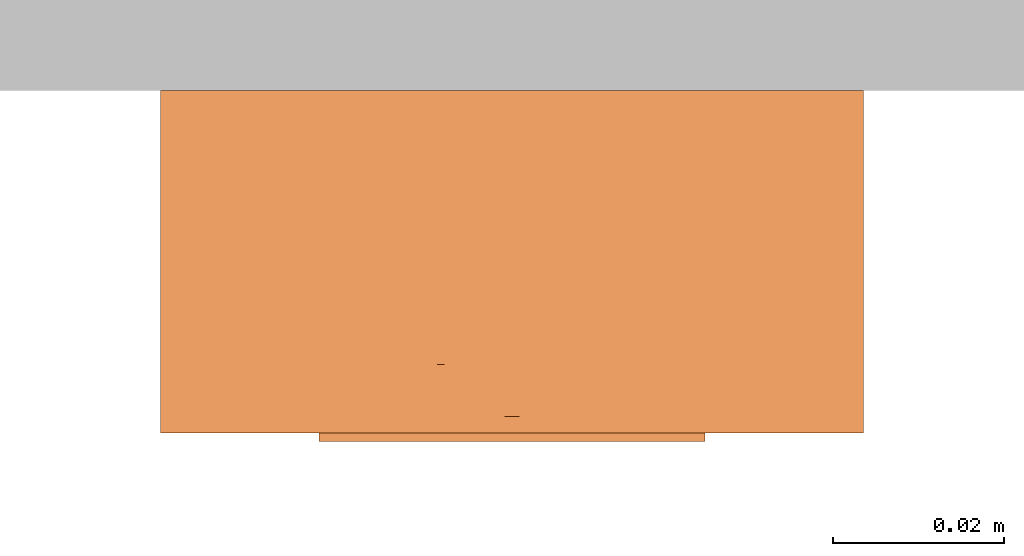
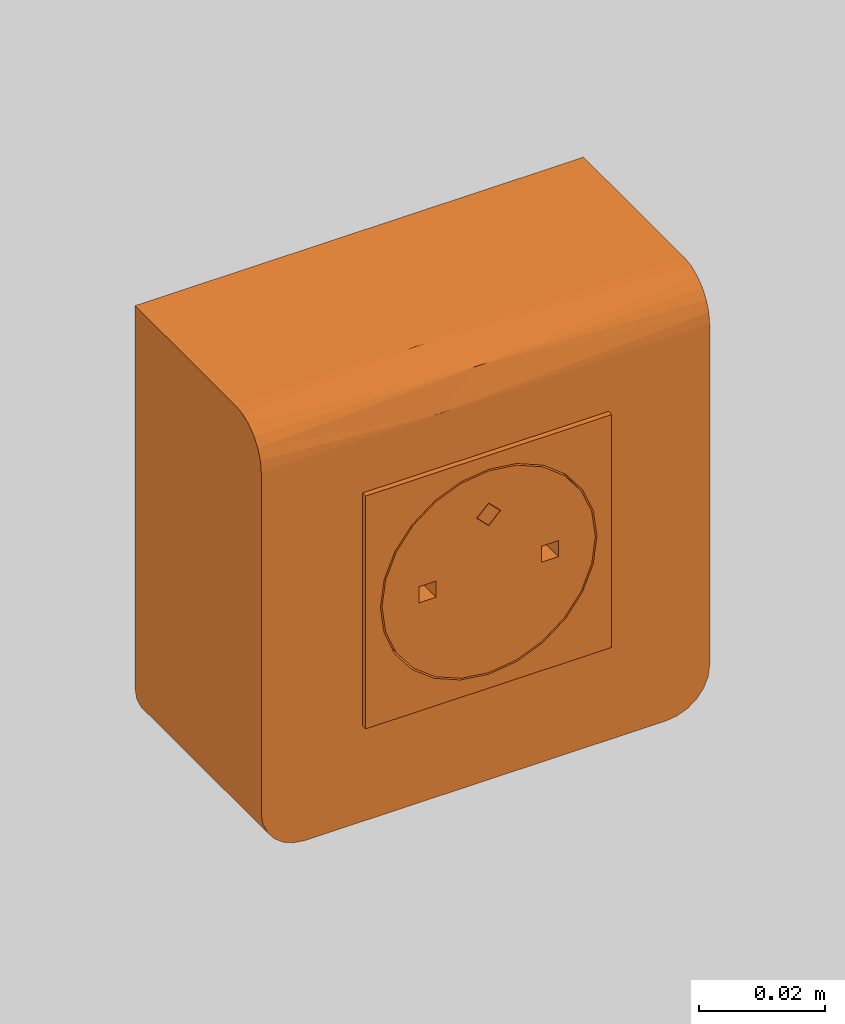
# One storey, part 103 of 197: 1 proxy.
"""IFC2X3 building model written with IfcOpenShell, lengths in metres."""

from ifc_helpers import new_model, entity, si_unit, converted_unit, direction, frame, origin, place, context, subcontext, project, spatial, faceted_brep, source, transform, mapped, material, material_list, type_object, type_shapes, element, save


model = new_model("IFC2X3")

# Units and contexts
model_context = context("Model", 3, precision=1e-05, world=origin(), true_north=direction((6.123031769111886e-17, 1.0)))
body_context = subcontext(model_context, "Body", "Model", "MODEL_VIEW")
ifc_project = project(units=[si_unit("LENGTHUNIT", "METRE"), converted_unit("PLANEANGLEUNIT", "DEGREE", entity("IfcPlaneAngleMeasure", 0.017453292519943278), si_unit("PLANEANGLEUNIT", "RADIAN"), dimensions=[0, 0, 0, 0, 0, 0, 0]), si_unit("AREAUNIT", "SQUARE_METRE")], contexts=[model_context])

# Site, building, storey
site_placement = place(None, origin())
site = spatial("IfcSite", under=ifc_project, at=site_placement, Name="Default", CompositionType="ELEMENT")
building_placement = place(site_placement, origin())
building = spatial("IfcBuilding", under=site, at=building_placement, CompositionType="ELEMENT")
storey_placement = place(building_placement, origin())
storey = spatial("IfcBuildingStorey", under=building, at=storey_placement, Name="Niveau 0", CompositionType="ELEMENT", Elevation=0.0)

# Proxy
ifc_material_1 = material(Name="<Unnamed>")
ifc_material_2 = material(Name="BETCE-PCN-BLANC")
ifc_material_3 = material(Name="BETCE-ENJOLIVEUR PC-BLANC")
ifc_material_list = material_list([ifc_material_1, ifc_material_2, ifc_material_3])
building_element_proxy_type = type_object("IfcBuildingElementProxyType", Name="Prise simple saillie:PC20A", PredefinedType="NOTDEFINED", material=ifc_material_list)
shared_shape = source(origin(), body_context, "Body", "Brep", [
    faceted_brep([(0.0, -0.04099309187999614, 0.013200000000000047), (-0.0020999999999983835, -0.04099309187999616, 0.011100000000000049), (0.0, -0.04099309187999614, 0.00900000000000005), (0.0021000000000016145, -0.040993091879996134, 0.011100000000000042), (0.0021000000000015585, -0.031999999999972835, 0.011100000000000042), (0.0, -0.03199999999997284, 0.00900000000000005), (-0.0020999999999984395, -0.031999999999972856, 0.011100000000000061), (0.0, -0.03199999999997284, 0.013200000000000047)], [[[0, 1, 2, 3]], [[4, 5, 6, 7]], [[3, 4, 7, 0]], [[7, 6, 1, 0]], [[1, 6, 5, 2]], [[5, 4, 3, 2]]]),
    faceted_brep([(-0.020499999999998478, -0.03199309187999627, 0.0205), (-0.020499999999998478, -0.03199309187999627, -0.020500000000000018), (0.020500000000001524, -0.031993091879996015, -0.020500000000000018), (0.020500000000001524, -0.031993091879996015, 0.0205), (-0.02049999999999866, -0.002993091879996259, 0.0205), (0.020500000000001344, -0.0029930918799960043, 0.0205), (0.020500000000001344, -0.0029930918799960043, -0.020500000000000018), (-0.02049999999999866, -0.002993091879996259, -0.020500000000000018)], [[[0, 1, 2, 3]], [[4, 5, 6, 7]], [[1, 0, 4, 7]], [[2, 1, 7, 6]], [[3, 2, 6, 5]], [[0, 3, 5, 4]]]),
    faceted_brep([(-0.02249999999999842, -0.04099309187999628, 0.022499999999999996), (-0.00989999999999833, -0.0409930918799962, 0.017147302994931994), (-0.005124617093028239, -0.04099309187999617, 0.01912533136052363), (-0.014000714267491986, -0.04099309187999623, 0.014000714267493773), (0.0, -0.040993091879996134, 0.01980000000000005), (-0.01714730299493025, -0.040993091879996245, 0.009900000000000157), (-0.01912533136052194, -0.040993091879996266, 0.005124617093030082), (-0.019799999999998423, -0.040993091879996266, 0.0), (-0.02249999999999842, -0.04099309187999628, -0.022500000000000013), (0.022500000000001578, -0.040993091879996, 0.022499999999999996), (-0.019125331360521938, -0.040993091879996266, -0.0051246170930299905), (-0.01714730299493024, -0.040993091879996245, -0.009900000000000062), (-0.014000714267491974, -0.04099309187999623, -0.014000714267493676), (-0.009899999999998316, -0.0409930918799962, -0.01714730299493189), (-0.00512461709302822, -0.04099309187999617, -0.019125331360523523), (0.0, -0.040993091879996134, -0.019799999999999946), (0.022500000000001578, -0.040993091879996, -0.022500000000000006), (0.005124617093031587, -0.04099309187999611, -0.01912533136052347), (0.009900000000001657, -0.04099309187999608, -0.01714730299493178), (0.014000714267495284, -0.04099309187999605, -0.014000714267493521), (0.0171473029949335, -0.04099309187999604, -0.00989999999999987), (0.019125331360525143, -0.040993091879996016, -0.0051246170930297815), (0.019800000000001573, -0.040993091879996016, 0.0), (0.005124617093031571, -0.04099309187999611, 0.01912533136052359), (0.009900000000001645, -0.04099309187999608, 0.017147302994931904), (0.01400071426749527, -0.04099309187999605, 0.014000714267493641), (0.0171473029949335, -0.04099309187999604, 0.009899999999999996), (0.019125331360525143, -0.040993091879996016, 0.005124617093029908), (-0.022499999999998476, -0.03199999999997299, -0.022500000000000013), (-0.009899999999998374, -0.031999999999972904, -0.01714730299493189), (-0.0051246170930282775, -0.031999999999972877, -0.019125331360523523), (-0.01400071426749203, -0.03199999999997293, -0.014000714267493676), (0.0, -0.03199999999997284, -0.019799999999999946), (-0.017147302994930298, -0.03199999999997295, -0.009900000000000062), (-0.019125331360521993, -0.03199999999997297, -0.0051246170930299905), (-0.01979999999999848, -0.03199999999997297, 0.0), (-0.022499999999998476, -0.03199999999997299, 0.022499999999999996), (0.022500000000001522, -0.0319999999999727, -0.022500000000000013), (-0.019125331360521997, -0.03199999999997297, 0.005124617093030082), (-0.017147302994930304, -0.03199999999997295, 0.009900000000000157), (-0.014000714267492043, -0.03199999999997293, 0.014000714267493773), (-0.009899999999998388, -0.031999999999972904, 0.017147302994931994), (-0.005124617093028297, -0.031999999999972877, 0.01912533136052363), (0.0, -0.03199999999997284, 0.01980000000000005), (0.022500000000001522, -0.0319999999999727, 0.022499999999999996), (0.005124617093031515, -0.031999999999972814, 0.01912533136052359), (0.009900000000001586, -0.03199999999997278, 0.017147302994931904), (0.014000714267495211, -0.03199999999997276, 0.014000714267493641), (0.017147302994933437, -0.03199999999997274, 0.009899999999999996), (0.01912533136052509, -0.031999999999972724, 0.005124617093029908), (0.019800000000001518, -0.031999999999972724, 0.0), (0.005124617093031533, -0.031999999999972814, -0.01912533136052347), (0.009900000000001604, -0.03199999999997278, -0.01714730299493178), (0.014000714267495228, -0.03199999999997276, -0.014000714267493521), (0.017147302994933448, -0.03199999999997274, -0.00989999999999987), (0.01912533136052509, -0.031999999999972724, -0.0051246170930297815)], [[[0, 1, 2]], [[1, 0, 3]], [[0, 2, 4]], [[5, 3, 0]], [[6, 5, 0]], [[7, 6, 0]], [[0, 8, 7]], [[4, 9, 0]], [[10, 7, 8]], [[11, 10, 8]], [[12, 11, 8]], [[8, 13, 12]], [[13, 8, 14]], [[15, 14, 8]], [[8, 16, 15]], [[17, 15, 16]], [[18, 17, 16]], [[16, 19, 18]], [[19, 16, 20]], [[21, 20, 16]], [[22, 21, 16]], [[22, 16, 9]], [[9, 4, 23]], [[9, 23, 24]], [[24, 25, 9]], [[25, 26, 9]], [[26, 27, 9]], [[9, 27, 22]], [[28, 29, 30]], [[29, 28, 31]], [[28, 30, 32]], [[33, 31, 28]], [[34, 33, 28]], [[35, 34, 28]], [[28, 36, 35]], [[32, 37, 28]], [[38, 35, 36]], [[39, 38, 36]], [[40, 39, 36]], [[36, 41, 40]], [[41, 36, 42]], [[43, 42, 36]], [[36, 44, 43]], [[45, 43, 44]], [[46, 45, 44]], [[44, 47, 46]], [[47, 44, 48]], [[49, 48, 44]], [[50, 49, 44]], [[50, 44, 37]], [[37, 32, 51]], [[37, 51, 52]], [[52, 53, 37]], [[53, 54, 37]], [[54, 55, 37]], [[37, 55, 50]], [[36, 28, 8, 0]], [[44, 36, 0, 9]], [[37, 44, 9, 16]], [[28, 37, 16, 8]], [[50, 22, 27, 49]], [[49, 27, 26, 48]], [[46, 47, 25, 24]], [[25, 47, 48, 26]], [[45, 46, 24, 23]], [[45, 23, 4, 43]], [[43, 4, 2, 42]], [[42, 2, 1, 41]], [[39, 40, 3, 5]], [[3, 40, 41, 1]], [[38, 39, 5, 6]], [[38, 6, 7, 35]], [[35, 7, 10, 34]], [[34, 10, 11, 33]], [[29, 31, 12, 13]], [[12, 31, 33, 11]], [[30, 29, 13, 14]], [[30, 14, 15, 32]], [[32, 15, 17, 51]], [[51, 17, 18, 52]], [[54, 53, 19, 20]], [[19, 53, 52, 18]], [[55, 54, 20, 21]], [[55, 21, 22, 50]]]),
    faceted_brep([(-0.009644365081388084, -0.031999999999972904, -0.001555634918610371), (-0.00974999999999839, -0.031999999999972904, -0.01688749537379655), (-0.01378858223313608, -0.03199999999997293, -0.013788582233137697), (-0.005046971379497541, -0.031999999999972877, -0.0188355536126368), (-0.016887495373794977, -0.03199999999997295, -0.009750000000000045), (0.0, -0.03199999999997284, -0.019499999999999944), (-0.01275563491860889, -0.031999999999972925, -0.0015556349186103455), (0.009644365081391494, -0.031999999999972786, -0.0015556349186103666), (0.0, -0.03199999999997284, 0.00890000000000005), (-0.009644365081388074, -0.031999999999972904, 0.0015556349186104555), (-0.0021999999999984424, -0.031999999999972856, 0.011100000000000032), (-0.01378858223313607, -0.03199999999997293, 0.013788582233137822), (-0.016887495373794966, -0.03199999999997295, 0.00975000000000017), (-0.012755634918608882, -0.031999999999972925, 0.0015556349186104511), (-0.019499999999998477, -0.03199999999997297, 0.0), (-0.018835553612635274, -0.03199999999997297, 0.0050469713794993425), (-0.018835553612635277, -0.03199999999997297, -0.005046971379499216), (-0.009749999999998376, -0.031999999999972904, 0.016887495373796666), (-0.005046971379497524, -0.031999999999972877, 0.018835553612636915), (0.0, -0.03199999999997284, 0.013300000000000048), (0.0, -0.03199999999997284, 0.019500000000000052), (0.005046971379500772, -0.031999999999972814, 0.018835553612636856), (0.00220000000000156, -0.031999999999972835, 0.01110000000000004), (0.009750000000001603, -0.031999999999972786, 0.01688749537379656), (0.01378858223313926, -0.03199999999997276, 0.01378858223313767), (0.009644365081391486, -0.031999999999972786, 0.001555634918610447), (0.016887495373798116, -0.03199999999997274, 0.009749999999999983), (0.012755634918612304, -0.031999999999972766, 0.001555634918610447), (0.018835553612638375, -0.031999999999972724, 0.005046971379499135), (0.01950000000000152, -0.031999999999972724, 0.0), (0.012755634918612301, -0.031999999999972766, -0.001555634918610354), (0.018835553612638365, -0.031999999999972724, -0.005046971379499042), (0.01688749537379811, -0.03199999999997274, -0.009749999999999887), (0.013788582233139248, -0.03199999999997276, -0.01378858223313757), (0.009750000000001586, -0.031999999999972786, -0.01688749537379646), (0.00504697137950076, -0.031999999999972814, -0.018835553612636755), (-0.0021999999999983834, -0.040993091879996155, 0.011100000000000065), (-0.005046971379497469, -0.04099309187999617, 0.018835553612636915), (-0.009749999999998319, -0.0409930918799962, 0.016887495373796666), (0.0, -0.040993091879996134, 0.013300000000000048), (-0.013788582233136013, -0.04099309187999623, 0.013788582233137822), (-0.009644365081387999, -0.0409930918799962, 0.0015556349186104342), (0.0, -0.040993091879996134, 0.00890000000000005), (0.0, -0.040993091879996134, 0.019500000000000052), (0.005046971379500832, -0.04099309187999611, 0.018835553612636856), (0.0022000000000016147, -0.04099309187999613, 0.011100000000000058), (0.009750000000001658, -0.04099309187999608, 0.01688749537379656), (0.01378858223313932, -0.04099309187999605, 0.01378858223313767), (0.009644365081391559, -0.04099309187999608, 0.001555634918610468), (0.016887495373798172, -0.04099309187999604, 0.009749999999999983), (-0.01688749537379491, -0.040993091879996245, 0.00975000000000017), (-0.012755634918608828, -0.04099309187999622, 0.0015556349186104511), (-0.01883555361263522, -0.04099309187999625, 0.0050469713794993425), (-0.01949999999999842, -0.040993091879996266, 0.0), (-0.012755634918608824, -0.04099309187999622, -0.001555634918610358), (-0.018835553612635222, -0.04099309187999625, -0.005046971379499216), (-0.016887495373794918, -0.040993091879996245, -0.009750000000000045), (-0.009644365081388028, -0.0409930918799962, -0.001555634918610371), (-0.013788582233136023, -0.04099309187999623, -0.013788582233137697), (-0.009749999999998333, -0.0409930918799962, -0.01688749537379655), (-0.0050469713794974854, -0.04099309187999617, -0.0188355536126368), (0.0, -0.040993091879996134, -0.019499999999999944), (0.00964436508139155, -0.04099309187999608, -0.001555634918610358), (0.005046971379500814, -0.04099309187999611, -0.018835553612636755), (0.009750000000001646, -0.04099309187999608, -0.01688749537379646), (0.013788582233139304, -0.04099309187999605, -0.01378858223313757), (0.016887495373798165, -0.04099309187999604, -0.009749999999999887), (0.012755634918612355, -0.04099309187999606, -0.001555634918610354), (0.01883555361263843, -0.04099309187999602, -0.005046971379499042), (0.019500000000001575, -0.040993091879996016, 0.0), (0.012755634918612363, -0.04099309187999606, 0.0015556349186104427), (0.01883555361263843, -0.04099309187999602, 0.005046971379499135)], [[[0, 1, 2]], [[0, 3, 1]], [[2, 4, 0]], [[3, 0, 5]], [[0, 4, 6]], [[5, 0, 7]], [[8, 7, 0]], [[8, 0, 9]], [[8, 9, 10]], [[10, 9, 11]], [[12, 11, 9]], [[12, 9, 13]], [[6, 14, 13]], [[15, 12, 13]], [[15, 13, 14]], [[16, 14, 6]], [[11, 17, 10]], [[18, 10, 17]], [[10, 18, 19]], [[19, 18, 20]], [[21, 19, 20]], [[19, 21, 22]], [[23, 22, 21]], [[22, 23, 24]], [[22, 24, 25]], [[25, 24, 26]], [[27, 25, 26]], [[26, 28, 27]], [[27, 28, 29]], [[29, 30, 27]], [[31, 30, 29]], [[30, 31, 32]], [[7, 30, 32]], [[7, 32, 33]], [[7, 33, 34]], [[7, 34, 35]], [[35, 5, 7]], [[8, 25, 7]], [[25, 8, 22]], [[6, 4, 16]], [[36, 37, 38]], [[36, 39, 37]], [[38, 40, 36]], [[41, 36, 40]], [[42, 36, 41]], [[37, 39, 43]], [[43, 39, 44]], [[39, 45, 44]], [[45, 46, 44]], [[45, 47, 46]], [[48, 45, 42]], [[48, 47, 45]], [[48, 49, 47]], [[50, 41, 40]], [[50, 51, 41]], [[50, 52, 51]], [[52, 53, 51]], [[54, 51, 53]], [[54, 53, 55]], [[56, 54, 55]], [[54, 56, 57]], [[58, 57, 56]], [[57, 58, 59]], [[59, 60, 57]], [[61, 57, 60]], [[62, 57, 61]], [[61, 63, 62]], [[63, 64, 62]], [[62, 64, 65]], [[65, 66, 62]], [[67, 62, 66]], [[68, 67, 66]], [[68, 69, 67]], [[67, 69, 70]], [[71, 70, 69]], [[49, 70, 71]], [[70, 49, 48]], [[48, 42, 62]], [[42, 57, 62]], [[42, 41, 57]], [[68, 31, 29, 69]], [[66, 32, 31, 68]], [[33, 65, 64, 34]], [[66, 65, 33, 32]], [[34, 64, 63, 35]], [[35, 63, 61, 5]], [[59, 1, 3, 60]], [[58, 2, 1, 59]], [[4, 56, 55, 16]], [[58, 56, 4, 2]], [[16, 55, 53, 14]], [[3, 5, 61, 60]], [[52, 15, 14, 53]], [[50, 12, 15, 52]], [[11, 40, 38, 17]], [[50, 40, 11, 12]], [[17, 38, 37, 18]], [[18, 37, 43, 20]], [[46, 23, 21, 44]], [[47, 24, 23, 46]], [[26, 49, 71, 28]], [[47, 49, 26, 24]], [[28, 71, 69, 29]], [[21, 20, 43, 44]], [[39, 19, 22, 45]], [[36, 10, 19, 39]], [[42, 8, 10, 36]], [[45, 22, 8, 42]], [[57, 0, 6, 54]], [[67, 30, 7, 62]], [[41, 9, 0, 57]], [[51, 13, 9, 41]], [[48, 25, 27, 70]], [[54, 6, 13, 51]], [[70, 27, 30, 67]], [[62, 7, 25, 48]]]),
    faceted_brep([(0.04099999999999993, -0.03199999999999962, -0.03299999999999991), (0.04099999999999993, -0.03199999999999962, 0.04092306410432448), (-0.04100000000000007, -0.03200000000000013, 0.04092306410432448), (-0.04100000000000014, -0.03200000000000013, -0.03299999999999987), (-0.0407274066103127, -0.03200000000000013, -0.03507055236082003), (-0.03992820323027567, -0.032000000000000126, -0.03699999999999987), (-0.03865685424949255, -0.03200000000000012, -0.038656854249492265), (-0.03700000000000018, -0.032000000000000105, -0.03992820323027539), (-0.035070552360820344, -0.03200000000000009, -0.04072740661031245), (-0.03300000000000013, -0.032000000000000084, -0.040999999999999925), (0.03299999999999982, -0.031999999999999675, -0.040999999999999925), (0.03507055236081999, -0.03199999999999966, -0.04072740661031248), (0.03699999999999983, -0.03199999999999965, -0.03992820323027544), (0.03865685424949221, -0.03199999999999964, -0.038656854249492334), (0.03992820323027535, -0.031999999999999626, -0.03699999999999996), (0.040727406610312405, -0.031999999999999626, -0.035070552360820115), (-0.04100000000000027, 0.0, -0.03299999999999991), (-0.04100000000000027, 0.0, 0.04092306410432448), (0.04099999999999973, 0.0, 0.04092306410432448), (0.04099999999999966, 0.0, -0.03299999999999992), (0.04072740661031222, 0.0, -0.03507055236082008), (0.03992820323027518, 0.0, -0.03699999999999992), (0.038656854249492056, 0.0, -0.0386568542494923), (0.03699999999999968, 0.0, -0.039928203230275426), (0.03507055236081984, 0.0, -0.04072740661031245), (0.032999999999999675, 0.0, -0.040999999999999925), (-0.03300000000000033, 0.0, -0.040999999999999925), (-0.03507055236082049, 0.0, -0.04072740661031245), (-0.03700000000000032, 0.0, -0.03992820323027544), (-0.0386568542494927, 0.0, -0.0386568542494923), (-0.03992820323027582, 0.0, -0.036999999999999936), (-0.04072740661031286, 0.0, -0.035070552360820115)], [[[0, 1, 2, 3, 4, 5, 6, 7, 8, 9, 10, 11, 12, 13, 14, 15]], [[16, 17, 18, 19, 20, 21, 22, 23, 24, 25, 26, 27, 28, 29, 30, 31]], [[3, 2, 17, 16]], [[10, 9, 26, 25]], [[1, 0, 19, 18]], [[2, 1, 18, 17]], [[26, 9, 8, 27]], [[27, 8, 7, 28]], [[28, 7, 6, 29]], [[30, 5, 4, 31]], [[31, 4, 3, 16]], [[29, 6, 5, 30]], [[20, 19, 0, 15]], [[21, 20, 15, 14]], [[22, 21, 14, 13]], [[23, 22, 13, 12]], [[24, 23, 12, 11]], [[10, 25, 24, 11]]]),
    faceted_brep([(-0.04100000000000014, -0.03200000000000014, -0.03299999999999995), (-0.04100000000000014, -0.03200000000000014, 0.04092306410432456), (-0.02250000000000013, -0.03200000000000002, 0.022499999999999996), (-0.02250000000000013, -0.03200000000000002, -0.022500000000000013), (-0.033000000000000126, -0.032000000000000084, -0.04099999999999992), (-0.0350705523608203, -0.0320000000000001, -0.04072740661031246), (-0.040727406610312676, -0.03200000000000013, -0.03507055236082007), (0.022499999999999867, -0.03199999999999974, 0.022499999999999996), (-0.00838016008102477, -0.03199999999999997, 0.04092306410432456), (0.04099999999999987, -0.031999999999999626, 0.04092306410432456), (0.04099999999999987, -0.031999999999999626, -0.03299999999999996), (0.022499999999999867, -0.03199999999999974, -0.022500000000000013), (0.03299999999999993, -0.031999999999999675, -0.04099999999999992), (0.03507055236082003, -0.03199999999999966, -0.04072740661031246), (0.040727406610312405, -0.031999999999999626, -0.03507055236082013), (0.03699999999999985, -0.03199999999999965, -0.03992820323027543), (0.039928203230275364, -0.03199999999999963, -0.03699999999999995), (0.03865685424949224, -0.03199999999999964, -0.03865685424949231), (-0.03700000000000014, -0.03200000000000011, -0.03992820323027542), (-0.039928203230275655, -0.032000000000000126, -0.036999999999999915), (-0.038656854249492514, -0.03200000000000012, -0.03865685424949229), (0.04099999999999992, -0.03999999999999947, -0.03300000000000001), (0.040999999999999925, -0.03999999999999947, 0.032923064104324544), (0.02249999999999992, -0.039999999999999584, -0.022500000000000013), (0.032999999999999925, -0.03999999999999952, -0.04099999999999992), (0.03507055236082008, -0.0399999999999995, -0.04072740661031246), (0.04072740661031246, -0.03999999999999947, -0.03507055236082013), (0.02249999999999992, -0.039999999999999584, 0.022499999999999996), (-0.02250000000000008, -0.03999999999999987, 0.022499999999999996), (-0.008380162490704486, -0.03999999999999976, 0.032923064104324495), (-0.041000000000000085, -0.03999999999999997, 0.032923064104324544), (-0.02250000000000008, -0.03999999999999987, -0.022500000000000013), (-0.041000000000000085, -0.03999999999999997, -0.03299999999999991), (-0.033000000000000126, -0.039999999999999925, -0.04099999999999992), (-0.035070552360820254, -0.039999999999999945, -0.04072740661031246), (-0.04072740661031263, -0.03999999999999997, -0.03507055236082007), (-0.03700000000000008, -0.03999999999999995, -0.03992820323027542), (-0.039928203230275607, -0.039999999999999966, -0.036999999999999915), (-0.03865685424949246, -0.039999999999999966, -0.03865685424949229), (0.03699999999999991, -0.039999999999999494, -0.03992820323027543), (0.03992820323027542, -0.03999999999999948, -0.03699999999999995), (0.038656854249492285, -0.03999999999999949, -0.03865685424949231), (0.0409999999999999, -0.037656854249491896, 0.03857991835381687), (0.04099999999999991, -0.038928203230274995, 0.0369230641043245), (0.04099999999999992, -0.03972740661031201, 0.034993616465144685), (0.040999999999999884, -0.03407055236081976, 0.04065047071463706), (0.04099999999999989, -0.03599999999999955, 0.0398512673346), (-0.04100000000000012, -0.03407055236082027, 0.04065047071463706), (-0.041000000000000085, -0.039727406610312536, 0.034993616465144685), (-0.0410000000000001, -0.03892820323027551, 0.0369230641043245), (-0.041000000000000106, -0.037656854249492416, 0.03857991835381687), (-0.04100000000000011, -0.03600000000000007, 0.0398512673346), (1.6351119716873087e-09, -0.0380711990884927, 0.0381327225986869)], [[[0, 1, 2]], [[3, 0, 2]], [[4, 0, 3]], [[0, 4, 5]], [[6, 0, 5]], [[1, 7, 2]], [[7, 1, 8]], [[7, 8, 9]], [[10, 7, 9]], [[11, 7, 10]], [[12, 11, 10]], [[12, 10, 13]], [[13, 10, 14]], [[15, 13, 14]], [[16, 15, 14]], [[15, 16, 17]], [[11, 12, 4]], [[3, 11, 4]], [[6, 5, 18]], [[6, 18, 19]], [[20, 19, 18]], [[21, 22, 23]], [[24, 21, 23]], [[21, 24, 25]], [[26, 21, 25]], [[23, 22, 27]], [[22, 28, 27]], [[28, 22, 29]], [[28, 29, 30]], [[31, 28, 30]], [[32, 31, 30]], [[33, 31, 32]], [[33, 32, 34]], [[34, 32, 35]], [[36, 34, 35]], [[37, 36, 35]], [[36, 37, 38]], [[31, 33, 24]], [[23, 31, 24]], [[26, 25, 39]], [[26, 39, 40]], [[41, 40, 39]], [[42, 43, 44, 22, 21, 10, 9, 45, 46]], [[14, 10, 21, 26]], [[16, 14, 26, 40]], [[17, 16, 40, 41]], [[15, 17, 41, 39]], [[13, 15, 39, 25]], [[12, 13, 25, 24]], [[4, 12, 24, 33]], [[5, 4, 33, 34]], [[18, 5, 34, 36]], [[20, 18, 36, 38]], [[19, 20, 38, 37]], [[6, 19, 37, 35]], [[0, 6, 35, 32]], [[47, 1, 0, 32, 30, 48, 49, 50, 51]], [[3, 2, 28, 31]], [[11, 3, 31, 23]], [[7, 11, 23, 27]], [[2, 7, 27, 28]], [[42, 52, 43]], [[48, 30, 29]], [[44, 29, 22]], [[52, 29, 44]], [[8, 1, 47]], [[45, 9, 8]], [[43, 52, 44]], [[49, 48, 29]], [[46, 45, 52]], [[8, 52, 45]], [[8, 47, 51]], [[50, 49, 52]], [[29, 52, 49]], [[51, 52, 8]], [[52, 51, 50]], [[52, 42, 46]]]),
])
type_shapes(building_element_proxy_type, [shared_shape])
proxy_placement = place(storey_placement, frame((-411.4284485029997, 89.39154659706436, 0.49999999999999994)))
element("IfcBuildingElementProxy", 1, at=proxy_placement, inside=storey, type_object=building_element_proxy_type, material=ifc_material_list, Name="Prise simple saillie:PC20A", ObjectType="Prise simple saillie:PC20A", context=body_context, shape_type="MappedRepresentation", body=[
    mapped(shared_shape, transform((0.0, 0.0, 0.0), scale=1.0)),
])

save(model, "model.ifc")
